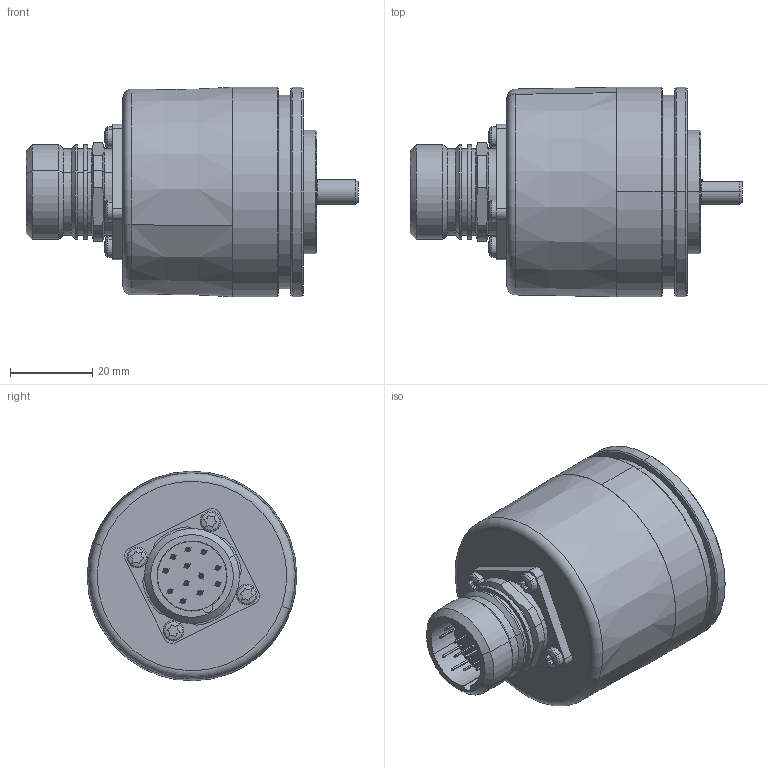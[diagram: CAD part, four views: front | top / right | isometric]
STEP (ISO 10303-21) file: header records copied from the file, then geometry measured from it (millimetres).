
FILE_DESCRIPTION (( 'STEP AP214' ), '1' );
FILE_NAME ('5000.61X7.XXXX.STEP', '2009-01-14T10:30:52', ( 'admin' ), ( 'Fritz Kübler GmbH' ), 'SwSTEP 2.0', 'SolidWorks 2008', '' );
FILE_SCHEMA (( 'AUTOMOTIVE_DESIGN' ));
Length unit declared in the file: millimetre
Products named in the file (1): 5000.61X7.XXXX
Bounding box: 80.5 x 50.8 x 50.8 mm (x, y, z)
Volume: 54563.3 mm3; surface area: 36718.4 mm2
Topology: 22 solids, 25 shells, 882 faces, 1989 edges, 1192 vertices
Faces by surface type: cylinder 353, plane 206, cone 153, torus 99, sphere 59, bspline 12
Entity records: 35247 total; most frequent: CARTESIAN_POINT 5270, DIRECTION 4711, ORIENTED_EDGE 3798, AXIS2_PLACEMENT_3D 2021, EDGE_CURVE 1899, VERTEX_POINT 1162, CIRCLE 1150, EDGE_LOOP 1043
